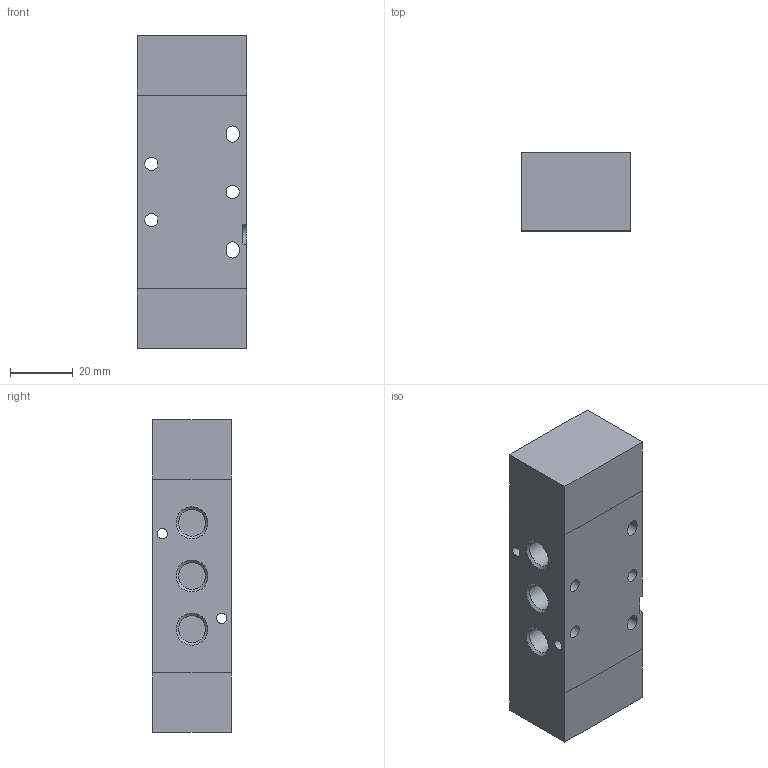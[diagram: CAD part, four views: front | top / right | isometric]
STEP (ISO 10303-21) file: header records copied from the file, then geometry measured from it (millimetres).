
FILE_DESCRIPTION((''),'2;1');
FILE_NAME('K:\A-Roberto\_Inventor\Rev.Librerie\TECNOECO\T488_52_11_1.stp','2006-10-06T08:48:30',('rivolro1'),(''),'Autodesk Inventor 11','Autodesk Inventor 11','');
FILE_SCHEMA(('AUTOMOTIVE_DESIGN { 1 0 10303 214 1 1 1 1 }'));
Length unit declared in the file: millimetre
Products named in the file (1): T488_52_11_1
Bounding box: 35 x 25 x 100 mm (x, y, z)
Volume: 82535.8 mm3; surface area: 17078.5 mm2
Topology: 1 solids, 1 shells, 58 faces, 136 edges, 89 vertices
Faces by surface type: plane 26, bspline 23, cylinder 9
Full cylindrical faces by diameter (mm): 4.2 x3
Entity records: 1809 total; most frequent: CARTESIAN_POINT 554, DIRECTION 230, ORIENTED_EDGE 230, EDGE_CURVE 115, EDGE_LOOP 100, VERTEX_POINT 87, AXIS2_PLACEMENT_3D 79, VECTOR 72
